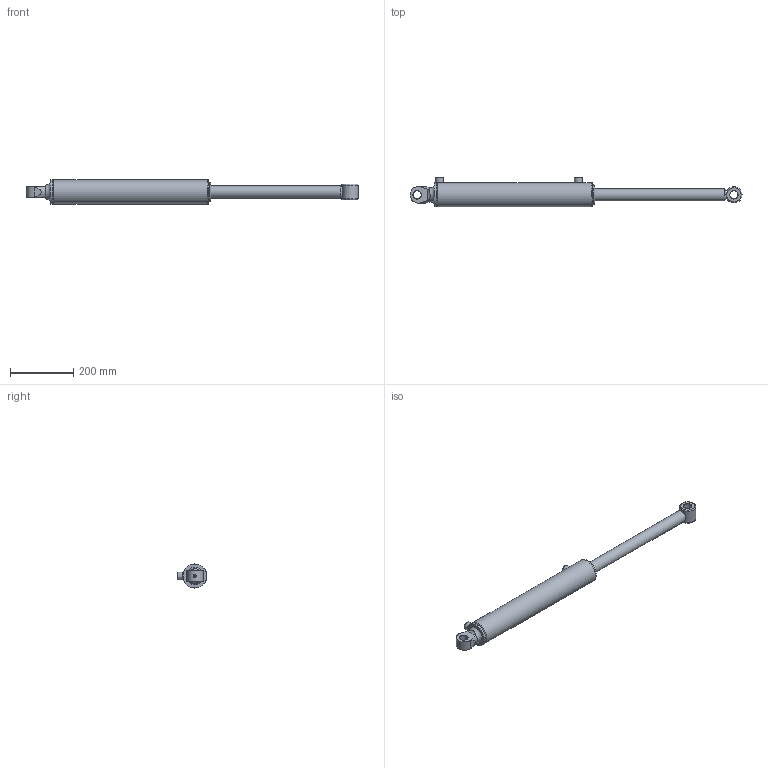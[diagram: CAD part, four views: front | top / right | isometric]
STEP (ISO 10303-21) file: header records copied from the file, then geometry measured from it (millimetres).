
FILE_DESCRIPTION(/* description */ ('Alibre Inc.'),/* implementation_level */ '2;1');
FILE_NAME(/* name */ 'export0',/* time_stamp */ '2016-08-16T09:56:53+12:00',/* author */ (''),/* organization */ (''),/* preprocessor_version */ 'ST-DEVELOPER v14',/* originating_system */ 'Alibre',/* authorisation */ '');
FILE_SCHEMA (('AUTOMOTIVE_DESIGN'));
Length unit declared in the file: centimetre
Bounding box: 1048.13 x 94.2 x 76.2 mm (x, y, z)
Volume: 1613028.5 mm3; surface area: 375854.8 mm2
Topology: 12 solids, 12 shells, 150 faces, 308 edges, 192 vertices
Faces by surface type: cylinder 55, plane 51, cone 28, torus 13, sphere 2, bspline 1
Full cylindrical faces by diameter (mm): 2.5 x2, 7 x3, 8.3 x2, 8.8 x1, 15.25 x2, 23 x1, 23.622 x1, 25 x2, 25.4 x2, 25.45 x1, 38.1 x1, 38.18 x2, 38.35 x1, 44.45 x1, 47.62 x2, 47.63 x1, 48 x2, 50.8 x1, 56.5 x1, 57.66 x1, 58.9 x2, 59.87 x2, 60.2 x1, 62.13 x2, 63.39 x2, 63.4 x1, 63.5 x2, 66.7 x1, 76.2 x3
Entity records: 4139 total; most frequent: CARTESIAN_POINT 1185, DIRECTION 569, ORIENTED_EDGE 394, AXIS2_PLACEMENT_3D 300, FACE_BOUND 271, EDGE_LOOP 269, EDGE_CURVE 197, VERTEX_POINT 174
